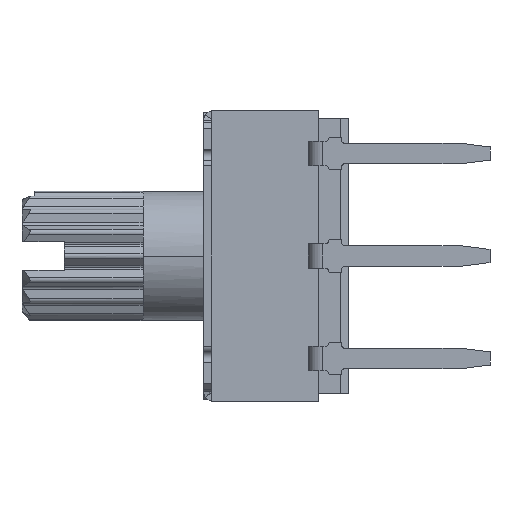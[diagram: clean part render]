
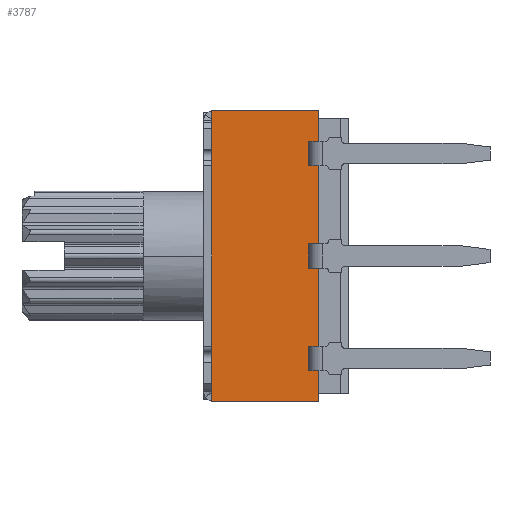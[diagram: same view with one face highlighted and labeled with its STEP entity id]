
A CAD part, left-side view. The second image highlights one B-rep face of the part: STEP entity #3787.
In plain terms, the highlighted planar face has unit normal (-1, 0, 0).
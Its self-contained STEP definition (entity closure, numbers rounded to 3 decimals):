
#203 = VECTOR ( 'NONE', #35093, 1000. ) ;
#1023 = CARTESIAN_POINT ( 'NONE',  ( -3.6, 1., 3.4 ) ) ;
#1201 = LINE ( 'NONE', #15749, #6295 ) ;
#1387 = LINE ( 'NONE', #1413, #14763 ) ;
#1413 = CARTESIAN_POINT ( 'NONE',  ( -3.6, 4.42, 3.6 ) ) ;
#1782 = CARTESIAN_POINT ( 'NONE',  ( -3.6, 0.75, 3.4 ) ) ;
#2014 = CARTESIAN_POINT ( 'NONE',  ( -3.6, 0.75, 0.3 ) ) ;
#2983 = CARTESIAN_POINT ( 'NONE',  ( -3.6, 0.75, -2.84 ) ) ;
#3183 = EDGE_CURVE ( 'NONE', #27032, #19832, #22950, .T. ) ;
#3220 = CARTESIAN_POINT ( 'NONE',  ( -3.6, 1., -2.24 ) ) ;
#3448 = VERTEX_POINT ( 'NONE', #6860 ) ;
#3747 = ORIENTED_EDGE ( 'NONE', *, *, #11996, .F. ) ;
#3787 = ADVANCED_FACE ( 'NONE', ( #33770 ), #9314, .F. ) ;
#4013 = DIRECTION ( 'NONE',  ( 0., 1., 0. ) ) ;
#4017 = VERTEX_POINT ( 'NONE', #51419 ) ;
#4105 = CARTESIAN_POINT ( 'NONE',  ( -3.6, 4.42, -3.6 ) ) ;
#4856 = CARTESIAN_POINT ( 'NONE',  ( -3.6, 3.4, 3.4 ) ) ;
#4872 = LINE ( 'NONE', #21995, #46959 ) ;
#4879 = CARTESIAN_POINT ( 'NONE',  ( -3.6, 0., 3.4 ) ) ;
#5682 = DIRECTION ( 'NONE',  ( 0., -1., 0. ) ) ;
#6143 = VECTOR ( 'NONE', #19561, 1000. ) ;
#6264 = ORIENTED_EDGE ( 'NONE', *, *, #32621, .F. ) ;
#6295 = VECTOR ( 'NONE', #4013, 1000. ) ;
#6860 = CARTESIAN_POINT ( 'NONE',  ( -3.6, 3.4, -3.6 ) ) ;
#7451 = VECTOR ( 'NONE', #31707, 1000. ) ;
#8472 = LINE ( 'NONE', #51515, #203 ) ;
#8828 = VECTOR ( 'NONE', #21393, 1000. ) ;
#9314 = PLANE ( 'NONE',  #39028 ) ;
#10436 = EDGE_CURVE ( 'NONE', #39803, #39494, #50916, .T. ) ;
#11402 = EDGE_LOOP ( 'NONE', ( #3747, #47179, #47406, #38434, #29927, #28775, #20445, #13077, #6264, #51927, #44922, #51929, #43335, #11788, #14698, #34270 ) ) ;
#11461 = DIRECTION ( 'NONE',  ( 0., 1., 0. ) ) ;
#11563 = CARTESIAN_POINT ( 'NONE',  ( -3.6, 0.75, 2.24 ) ) ;
#11683 = EDGE_CURVE ( 'NONE', #45288, #4017, #29704, .T. ) ;
#11788 = ORIENTED_EDGE ( 'NONE', *, *, #11683, .F. ) ;
#11996 = EDGE_CURVE ( 'NONE', #13855, #43153, #4872, .T. ) ;
#12157 = VECTOR ( 'NONE', #44092, 1000. ) ;
#12627 = EDGE_CURVE ( 'NONE', #3448, #4017, #22083, .T. ) ;
#13065 = DIRECTION ( 'NONE',  ( 1., 0., 0. ) ) ;
#13077 = ORIENTED_EDGE ( 'NONE', *, *, #3183, .T. ) ;
#13210 = VECTOR ( 'NONE', #24224, 1000. ) ;
#13758 = VERTEX_POINT ( 'NONE', #2014 ) ;
#13855 = VERTEX_POINT ( 'NONE', #28042 ) ;
#14536 = LINE ( 'NONE', #4856, #8828 ) ;
#14698 = ORIENTED_EDGE ( 'NONE', *, *, #49006, .F. ) ;
#14763 = VECTOR ( 'NONE', #5682, 1000. ) ;
#15351 = EDGE_CURVE ( 'NONE', #15518, #13758, #8472, .T. ) ;
#15518 = VERTEX_POINT ( 'NONE', #11563 ) ;
#15749 = CARTESIAN_POINT ( 'NONE',  ( -3.6, 0., 2.84 ) ) ;
#15949 = CARTESIAN_POINT ( 'NONE',  ( -3.6, 1., 3.4 ) ) ;
#16459 = VECTOR ( 'NONE', #52684, 1000. ) ;
#17638 = CARTESIAN_POINT ( 'NONE',  ( -3.6, 0.75, 3.4 ) ) ;
#18362 = VERTEX_POINT ( 'NONE', #42736 ) ;
#18696 = CARTESIAN_POINT ( 'NONE',  ( -3.6, 0., 2.24 ) ) ;
#19018 = CARTESIAN_POINT ( 'NONE',  ( -3.6, 1., 0.3 ) ) ;
#19561 = DIRECTION ( 'NONE',  ( 0., 0., 1. ) ) ;
#19788 = LINE ( 'NONE', #31744, #12157 ) ;
#19832 = VERTEX_POINT ( 'NONE', #28021 ) ;
#20116 = VECTOR ( 'NONE', #23180, 1000. ) ;
#20445 = ORIENTED_EDGE ( 'NONE', *, *, #40162, .F. ) ;
#20912 = EDGE_CURVE ( 'NONE', #36465, #43153, #22088, .T. ) ;
#21393 = DIRECTION ( 'NONE',  ( 0., 0., -1. ) ) ;
#21820 = CARTESIAN_POINT ( 'NONE',  ( -3.6, 0.75, -0.3 ) ) ;
#21995 = CARTESIAN_POINT ( 'NONE',  ( -3.6, 0., -2.24 ) ) ;
#22083 = LINE ( 'NONE', #4105, #13210 ) ;
#22088 = LINE ( 'NONE', #43862, #6143 ) ;
#22950 = LINE ( 'NONE', #1023, #42148 ) ;
#23180 = DIRECTION ( 'NONE',  ( 0., 0., -1. ) ) ;
#24224 = DIRECTION ( 'NONE',  ( 0., -1., 0. ) ) ;
#26018 = DIRECTION ( 'NONE',  ( 0., 0., -1. ) ) ;
#26245 = EDGE_CURVE ( 'NONE', #39803, #47628, #19788, .T. ) ;
#27032 = VERTEX_POINT ( 'NONE', #28279 ) ;
#27611 = CARTESIAN_POINT ( 'NONE',  ( -3.6, 0., -2.84 ) ) ;
#28021 = CARTESIAN_POINT ( 'NONE',  ( -3.6, 1., 2.84 ) ) ;
#28042 = CARTESIAN_POINT ( 'NONE',  ( -3.6, 0.75, -2.24 ) ) ;
#28279 = CARTESIAN_POINT ( 'NONE',  ( -3.6, 1., 2.24 ) ) ;
#28775 = ORIENTED_EDGE ( 'NONE', *, *, #15351, .F. ) ;
#29555 = CARTESIAN_POINT ( 'NONE',  ( -3.6, 0.75, 3.6 ) ) ;
#29704 = LINE ( 'NONE', #43554, #20116 ) ;
#29927 = ORIENTED_EDGE ( 'NONE', *, *, #49704, .F. ) ;
#30837 = DIRECTION ( 'NONE',  ( 0., -1., 0. ) ) ;
#30942 = EDGE_CURVE ( 'NONE', #47628, #13855, #40126, .T. ) ;
#31127 = VECTOR ( 'NONE', #30837, 1000. ) ;
#31707 = DIRECTION ( 'NONE',  ( 0., -1., 0. ) ) ;
#31709 = LINE ( 'NONE', #27611, #7451 ) ;
#31744 = CARTESIAN_POINT ( 'NONE',  ( -3.6, 0., -0.3 ) ) ;
#32621 = EDGE_CURVE ( 'NONE', #18362, #19832, #1201, .T. ) ;
#33297 = LINE ( 'NONE', #36066, #37150 ) ;
#33770 = FACE_OUTER_BOUND ( 'NONE', #11402, .T. ) ;
#34270 = ORIENTED_EDGE ( 'NONE', *, *, #20912, .T. ) ;
#35093 = DIRECTION ( 'NONE',  ( 0., 0., -1. ) ) ;
#36066 = CARTESIAN_POINT ( 'NONE',  ( -3.6, 0., 0.3 ) ) ;
#36263 = VECTOR ( 'NONE', #38386, 1000. ) ;
#36465 = VERTEX_POINT ( 'NONE', #50683 ) ;
#36612 = EDGE_CURVE ( 'NONE', #47045, #18362, #50210, .T. ) ;
#37150 = VECTOR ( 'NONE', #11461, 1000. ) ;
#37221 = DIRECTION ( 'NONE',  ( 0., 0., 1. ) ) ;
#38386 = DIRECTION ( 'NONE',  ( 0., 0., -1. ) ) ;
#38434 = ORIENTED_EDGE ( 'NONE', *, *, #10436, .T. ) ;
#39028 = AXIS2_PLACEMENT_3D ( 'NONE', #4879, #13065, #42168 ) ;
#39395 = VECTOR ( 'NONE', #26018, 1000. ) ;
#39494 = VERTEX_POINT ( 'NONE', #19018 ) ;
#39803 = VERTEX_POINT ( 'NONE', #41844 ) ;
#39996 = EDGE_CURVE ( 'NONE', #41138, #3448, #14536, .T. ) ;
#40126 = LINE ( 'NONE', #17638, #36263 ) ;
#40162 = EDGE_CURVE ( 'NONE', #27032, #15518, #51574, .T. ) ;
#41138 = VERTEX_POINT ( 'NONE', #42685 ) ;
#41844 = CARTESIAN_POINT ( 'NONE',  ( -3.6, 1., -0.3 ) ) ;
#42148 = VECTOR ( 'NONE', #37221, 1000. ) ;
#42168 = DIRECTION ( 'NONE',  ( 0., 1., 0. ) ) ;
#42685 = CARTESIAN_POINT ( 'NONE',  ( -3.6, 3.4, 3.6 ) ) ;
#42736 = CARTESIAN_POINT ( 'NONE',  ( -3.6, 0.75, 2.84 ) ) ;
#43153 = VERTEX_POINT ( 'NONE', #3220 ) ;
#43335 = ORIENTED_EDGE ( 'NONE', *, *, #12627, .T. ) ;
#43554 = CARTESIAN_POINT ( 'NONE',  ( -3.6, 0.75, 3.4 ) ) ;
#43862 = CARTESIAN_POINT ( 'NONE',  ( -3.6, 1., 3.4 ) ) ;
#44092 = DIRECTION ( 'NONE',  ( 0., -1., 0. ) ) ;
#44922 = ORIENTED_EDGE ( 'NONE', *, *, #47052, .F. ) ;
#45288 = VERTEX_POINT ( 'NONE', #2983 ) ;
#46959 = VECTOR ( 'NONE', #50034, 1000. ) ;
#47045 = VERTEX_POINT ( 'NONE', #29555 ) ;
#47052 = EDGE_CURVE ( 'NONE', #41138, #47045, #1387, .T. ) ;
#47179 = ORIENTED_EDGE ( 'NONE', *, *, #30942, .F. ) ;
#47406 = ORIENTED_EDGE ( 'NONE', *, *, #26245, .F. ) ;
#47628 = VERTEX_POINT ( 'NONE', #21820 ) ;
#49006 = EDGE_CURVE ( 'NONE', #36465, #45288, #31709, .T. ) ;
#49704 = EDGE_CURVE ( 'NONE', #13758, #39494, #33297, .T. ) ;
#50034 = DIRECTION ( 'NONE',  ( 0., 1., 0. ) ) ;
#50210 = LINE ( 'NONE', #1782, #39395 ) ;
#50683 = CARTESIAN_POINT ( 'NONE',  ( -3.6, 1., -2.84 ) ) ;
#50916 = LINE ( 'NONE', #15949, #16459 ) ;
#51419 = CARTESIAN_POINT ( 'NONE',  ( -3.6, 0.75, -3.6 ) ) ;
#51515 = CARTESIAN_POINT ( 'NONE',  ( -3.6, 0.75, 3.4 ) ) ;
#51574 = LINE ( 'NONE', #18696, #31127 ) ;
#51927 = ORIENTED_EDGE ( 'NONE', *, *, #36612, .F. ) ;
#51929 = ORIENTED_EDGE ( 'NONE', *, *, #39996, .T. ) ;
#52684 = DIRECTION ( 'NONE',  ( 0., 0., 1. ) ) ;
